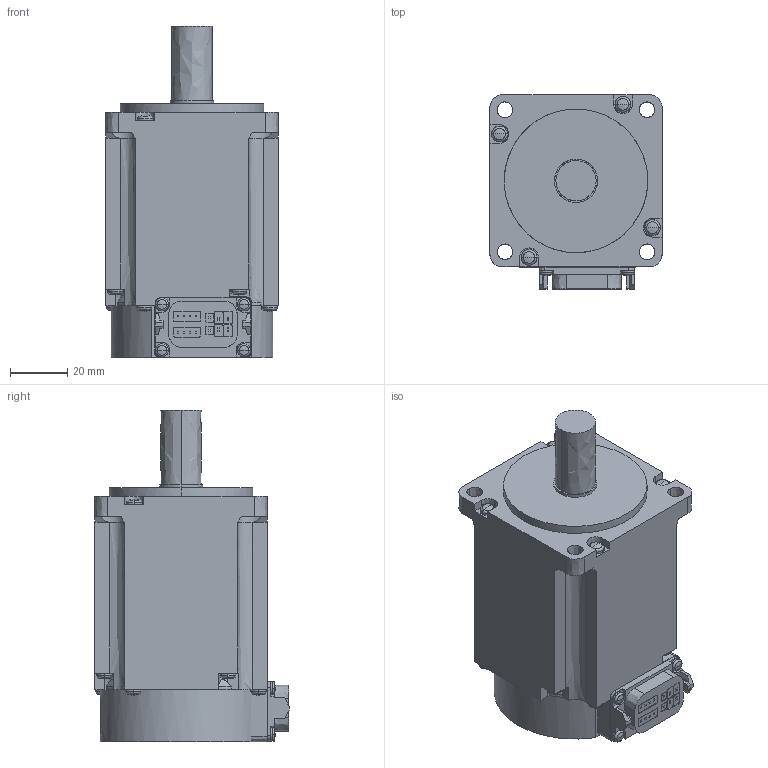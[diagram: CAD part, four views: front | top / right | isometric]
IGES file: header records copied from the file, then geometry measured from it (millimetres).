
Start section:  PTC IGES file: hk-kt43w_-_asm.igs
Global section: file name: hk-kt43w_-_asm.igs; native system: Creo Parametric by PTC Inc.; preprocessor: 2016380; author: XE90682; organization: Unknown; date: 20190115.173231; units: millimetre
Bounding box: 60 x 67.65 x 115.5 mm (x, y, z)
Volume: 278515.3 mm3; surface area: 29521.7 mm2
Topology: 1 solids, 1 shells, 401 faces, 1042 edges, 654 vertices
Faces by surface type: bspline 401
